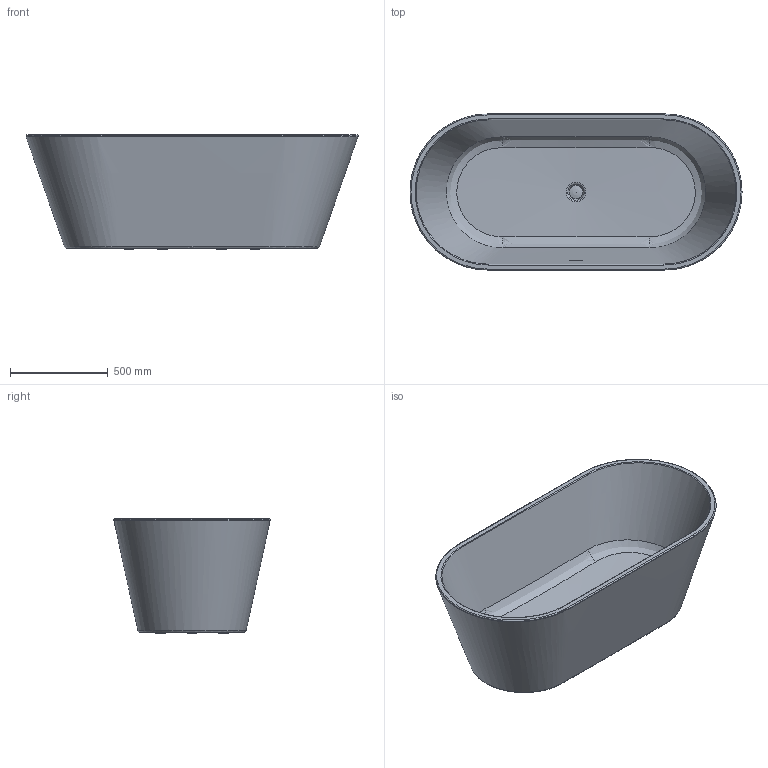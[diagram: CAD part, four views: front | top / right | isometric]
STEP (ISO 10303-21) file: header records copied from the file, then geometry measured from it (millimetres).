
FILE_DESCRIPTION(/* description */ (''),/* implementation_level */ '2;1');
FILE_NAME(/* name */ 'BT-03-170叠缸.stp',/* time_stamp */ '2023-11-29T15:20:34+08:00',/* author */ (''),/* organization */ (''),/* preprocessor_version */ 'ST-DEVELOPER v16',/* originating_system */ 'SIEMENS PLM Software NX 10.0',/* authorisation */ '');
FILE_SCHEMA (('AP203_CONFIGURATION_CONTROLLED_3D_DESIGN_OF_MECHANICAL_PARTS_AND_ASSEMBLIES_MIM_LF { 1 0 10303 403 2 1 2}'));
Length unit declared in the file: millimetre
Products named in the file (1): Admi36C87705vj1j
Bounding box: 1700 x 800 x 584 mm (x, y, z)
Volume: 42301675.1 mm3; surface area: 9893887 mm2
Topology: 8 solids, 8 shells, 142 faces, 313 edges, 204 vertices
Faces by surface type: plane 80, cylinder 31, bspline 17, cone 7, torus 6, sphere 1
Full cylindrical faces by diameter (mm): 10 x1, 12 x6, 40 x1, 42.5 x1, 49 x2, 50 x7, 65.4 x1, 70 x2
Entity records: 12873 total; most frequent: CARTESIAN_POINT 9926, DIRECTION 547, ORIENTED_EDGE 528, EDGE_CURVE 264, EDGE_LOOP 210, AXIS2_PLACEMENT_3D 201, VERTEX_POINT 194, LINE 145
